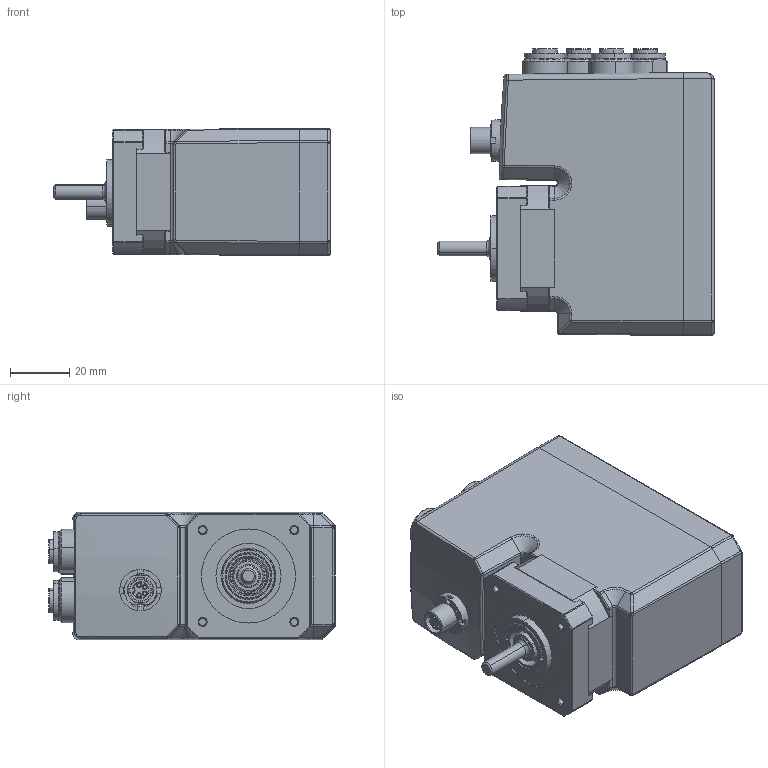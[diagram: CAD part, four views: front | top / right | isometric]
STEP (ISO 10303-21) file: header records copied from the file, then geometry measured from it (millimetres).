
FILE_DESCRIPTION((''),'2;1');
FILE_NAME('STEPPERASSY_ASM','2023-07-16T20:29:55',('KaviarasanNagaraj'),(''),'CREO PARAMETRIC BY PTC INC, 2021063','CREO PARAMETRIC BY PTC INC, 2021063','');
FILE_SCHEMA(('AUTOMOTIVE_DESIGN { 1 0 10303 214 1 1 1 1 }'));
Length unit declared in the file: millimetre
Products named in the file (8): CONNECTOR_RADIAL; BODY; FRONT; SHAFT_5; SEALING; STO; MIS17_ASM; STEPPERASSY_ASM
Assembly tree (7 placements, depth 3):
  STEPPERASSY_ASM
    MIS17_ASM
      CONNECTOR_RADIAL
      BODY
      FRONT
      SHAFT_5
      SEALING
      STO
Bounding box: 93.5 x 96.94 x 43.06 mm (x, y, z)
Volume: 266288.4 mm3; surface area: 40043.8 mm2
Topology: 6 solids, 6 shells, 677 faces, 1628 edges, 972 vertices
Faces by surface type: plane 249, cylinder 226, cone 94, bspline 58, torus 44, sphere 6
Entity records: 31835 total; most frequent: CARTESIAN_POINT 8301, DIRECTION 3374, ORIENTED_EDGE 3228, EDGE_CURVE 1614, AXIS2_PLACEMENT_3D 1324, VERTEX_POINT 972, FILL_AREA_STYLE_COLOUR 851, FILL_AREA_STYLE 851
